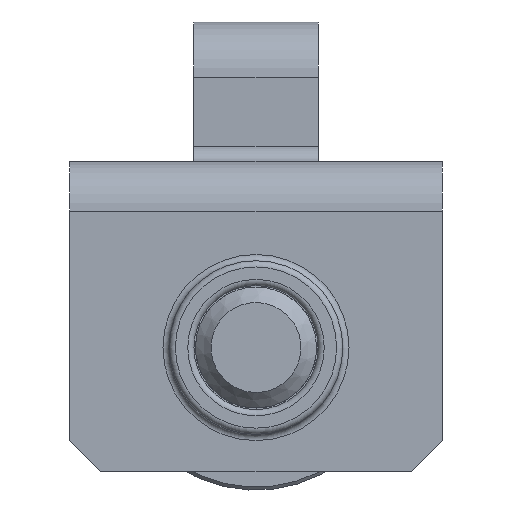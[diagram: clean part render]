
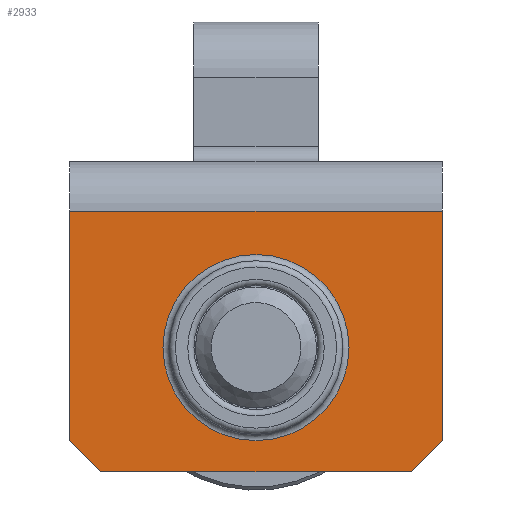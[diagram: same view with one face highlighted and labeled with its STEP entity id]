
A CAD part, front view. The second image highlights one B-rep face of the part: STEP entity #2933.
In plain terms, the highlighted planar face has unit normal (0, -1, 0).
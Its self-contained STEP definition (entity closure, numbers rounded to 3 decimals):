
#37 = EDGE_CURVE ( 'NONE', #3040, #2434, #969, .T. ) ;
#57 = VECTOR ( 'NONE', #515, 1000. ) ;
#83 = EDGE_LOOP ( 'NONE', ( #458, #3652, #2606, #2436, #2372, #2294 ) ) ;
#107 = CARTESIAN_POINT ( 'NONE',  ( 6., -20.058, -6. ) ) ;
#348 = ORIENTED_EDGE ( 'NONE', *, *, #2137, .T. ) ;
#353 = CARTESIAN_POINT ( 'NONE',  ( 1., -20.058, -10. ) ) ;
#401 = EDGE_CURVE ( 'NONE', #3040, #1792, #1373, .T. ) ;
#412 = EDGE_LOOP ( 'NONE', ( #348 ) ) ;
#458 = ORIENTED_EDGE ( 'NONE', *, *, #37, .F. ) ;
#515 = DIRECTION ( 'NONE',  ( 0., 0., -1. ) ) ;
#645 = FACE_OUTER_BOUND ( 'NONE', #83, .T. ) ;
#656 = VERTEX_POINT ( 'NONE', #2967 ) ;
#805 = AXIS2_PLACEMENT_3D ( 'NONE', #107, #2404, #2683 ) ;
#887 = DIRECTION ( 'NONE',  ( 1., 0., 0. ) ) ;
#926 = DIRECTION ( 'NONE',  ( -1., 0., 0. ) ) ;
#969 = LINE ( 'NONE', #2081, #1333 ) ;
#983 = CARTESIAN_POINT ( 'NONE',  ( 12., -20.058, -1.6 ) ) ;
#1112 = EDGE_CURVE ( 'NONE', #1565, #3621, #2727, .T. ) ;
#1147 = CARTESIAN_POINT ( 'NONE',  ( 0., -20.058, -9. ) ) ;
#1291 = CARTESIAN_POINT ( 'NONE',  ( 0., -20.058, -1.6 ) ) ;
#1300 = EDGE_CURVE ( 'NONE', #1934, #1565, #2877, .T. ) ;
#1301 = CARTESIAN_POINT ( 'NONE',  ( 1., -20.058, -10. ) ) ;
#1333 = VECTOR ( 'NONE', #3224, 1000. ) ;
#1373 = LINE ( 'NONE', #2500, #2506 ) ;
#1377 = EDGE_CURVE ( 'NONE', #1934, #1792, #2601, .T. ) ;
#1469 = PLANE ( 'NONE',  #1713 ) ;
#1565 = VERTEX_POINT ( 'NONE', #1291 ) ;
#1675 = CARTESIAN_POINT ( 'NONE',  ( 0., -20.058, -1.6 ) ) ;
#1687 = FACE_BOUND ( 'NONE', #412, .T. ) ;
#1713 = AXIS2_PLACEMENT_3D ( 'NONE', #2241, #2022, #887 ) ;
#1792 = VERTEX_POINT ( 'NONE', #2923 ) ;
#1892 = VECTOR ( 'NONE', #2658, 1000. ) ;
#1934 = VERTEX_POINT ( 'NONE', #983 ) ;
#2002 = DIRECTION ( 'NONE',  ( 0.707, 0., -0.707 ) ) ;
#2022 = DIRECTION ( 'NONE',  ( 0., 1., 0. ) ) ;
#2081 = CARTESIAN_POINT ( 'NONE',  ( 12., -20.058, -10. ) ) ;
#2137 = EDGE_CURVE ( 'NONE', #656, #656, #3049, .T. ) ;
#2241 = CARTESIAN_POINT ( 'NONE',  ( 12., -20.058, -1.6 ) ) ;
#2294 = ORIENTED_EDGE ( 'NONE', *, *, #2926, .T. ) ;
#2302 = VECTOR ( 'NONE', #2002, 1000. ) ;
#2372 = ORIENTED_EDGE ( 'NONE', *, *, #1112, .T. ) ;
#2404 = DIRECTION ( 'NONE',  ( 0., 1., 0. ) ) ;
#2434 = VERTEX_POINT ( 'NONE', #1301 ) ;
#2436 = ORIENTED_EDGE ( 'NONE', *, *, #1300, .T. ) ;
#2500 = CARTESIAN_POINT ( 'NONE',  ( 12., -20.058, -9. ) ) ;
#2506 = VECTOR ( 'NONE', #2539, 1000. ) ;
#2539 = DIRECTION ( 'NONE',  ( 0.707, 0., 0.707 ) ) ;
#2542 = VECTOR ( 'NONE', #926, 1000. ) ;
#2601 = LINE ( 'NONE', #2618, #1892 ) ;
#2606 = ORIENTED_EDGE ( 'NONE', *, *, #1377, .F. ) ;
#2618 = CARTESIAN_POINT ( 'NONE',  ( 12., -20.058, -1.6 ) ) ;
#2658 = DIRECTION ( 'NONE',  ( 0., 0., -1. ) ) ;
#2683 = DIRECTION ( 'NONE',  ( 1., 0., 0. ) ) ;
#2727 = LINE ( 'NONE', #1675, #57 ) ;
#2877 = LINE ( 'NONE', #3139, #2542 ) ;
#2880 = LINE ( 'NONE', #353, #2302 ) ;
#2923 = CARTESIAN_POINT ( 'NONE',  ( 12., -20.058, -9. ) ) ;
#2926 = EDGE_CURVE ( 'NONE', #3621, #2434, #2880, .T. ) ;
#2933 = ADVANCED_FACE ( 'NONE', ( #1687, #645 ), #1469, .F. ) ;
#2967 = CARTESIAN_POINT ( 'NONE',  ( 9., -20.058, -6. ) ) ;
#3040 = VERTEX_POINT ( 'NONE', #3136 ) ;
#3049 = CIRCLE ( 'NONE', #805, 3. ) ;
#3136 = CARTESIAN_POINT ( 'NONE',  ( 11., -20.058, -10. ) ) ;
#3139 = CARTESIAN_POINT ( 'NONE',  ( 12., -20.058, -1.6 ) ) ;
#3224 = DIRECTION ( 'NONE',  ( -1., 0., 0. ) ) ;
#3621 = VERTEX_POINT ( 'NONE', #1147 ) ;
#3652 = ORIENTED_EDGE ( 'NONE', *, *, #401, .T. ) ;
